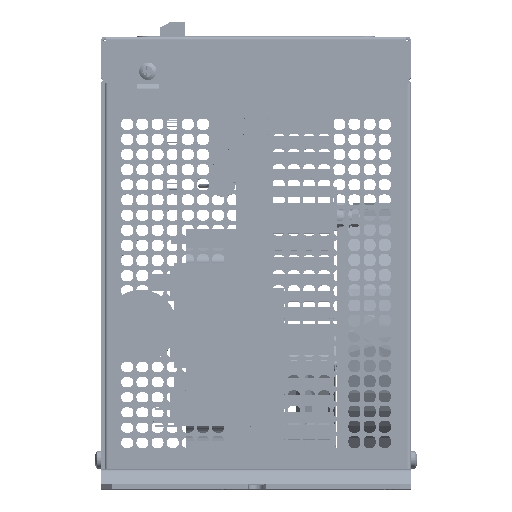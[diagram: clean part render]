
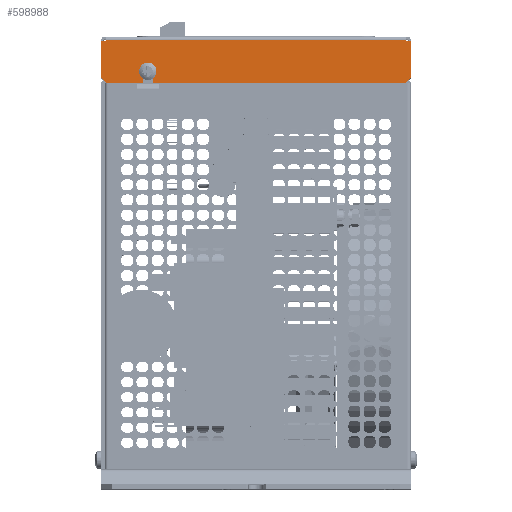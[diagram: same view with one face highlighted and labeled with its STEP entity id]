
A CAD part, top view. The second image highlights one B-rep face of the part: STEP entity #598988.
In plain terms, the highlighted planar face has unit normal (0, 0, 1).
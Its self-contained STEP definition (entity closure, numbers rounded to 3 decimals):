
#597510=DIRECTION('',(0.,-1.,0.));
#597511=VECTOR('',#597510,0.5);
#597512=CARTESIAN_POINT('',(69.5,18.5,136.5));
#597513=LINE('',#597512,#597511);
#597595=DIRECTION('',(1.,0.,0.));
#597596=VECTOR('',#597595,116.75);
#597597=CARTESIAN_POINT('',(-47.75,-1.5,136.5));
#597598=LINE('',#597597,#597596);
#597603=DIRECTION('',(1.,0.,0.));
#597604=VECTOR('',#597603,16.75);
#597605=CARTESIAN_POINT('',(-69.,-1.5,136.5));
#597606=LINE('',#597605,#597604);
#597607=DIRECTION('',(0.,1.,0.));
#597608=VECTOR('',#597607,6.5);
#597609=CARTESIAN_POINT('',(-47.75,-1.5,136.5));
#597610=LINE('',#597609,#597608);
#597611=CARTESIAN_POINT('',(-50.,5.,136.5));
#597612=DIRECTION('',(0.,0.,1.));
#597613=DIRECTION('',(1.,0.,0.));
#597614=AXIS2_PLACEMENT_3D('',#597611,#597612,#597613);
#597616=DIRECTION('',(0.,1.,0.));
#597617=VECTOR('',#597616,6.5);
#597618=CARTESIAN_POINT('',(-52.25,-1.5,136.5));
#597619=LINE('',#597618,#597617);
#597620=DIRECTION('',(1.,0.,0.));
#597621=VECTOR('',#597620,2.);
#597622=CARTESIAN_POINT('',(-71.5,18.,136.5));
#597623=LINE('',#597622,#597621);
#597624=DIRECTION('',(1.,0.,0.));
#597625=VECTOR('',#597624,139.);
#597626=CARTESIAN_POINT('',(-69.5,18.5,136.5));
#597627=LINE('',#597626,#597625);
#597628=DIRECTION('',(1.,0.,0.));
#597629=VECTOR('',#597628,2.);
#597630=CARTESIAN_POINT('',(69.5,18.,136.5));
#597631=LINE('',#597630,#597629);
#597636=DIRECTION('',(0.707,-0.707,0.));
#597637=VECTOR('',#597636,3.536);
#597638=CARTESIAN_POINT('',(-71.5,1.,136.5));
#597639=LINE('',#597638,#597637);
#597656=DIRECTION('',(0.,-1.,0.));
#597657=VECTOR('',#597656,17.);
#597658=CARTESIAN_POINT('',(-71.5,18.,136.5));
#597659=LINE('',#597658,#597657);
#597762=DIRECTION('',(0.,-1.,0.));
#597763=VECTOR('',#597762,17.);
#597764=CARTESIAN_POINT('',(71.5,18.,136.5));
#597765=LINE('',#597764,#597763);
#597794=DIRECTION('',(-0.707,-0.707,
0.));
#597795=VECTOR('',#597794,3.536);
#597796=CARTESIAN_POINT('',(71.5,1.,136.5));
#597797=LINE('',#597796,#597795);
#597824=DIRECTION('',(0.,-1.,0.));
#597825=VECTOR('',#597824,0.5);
#597826=CARTESIAN_POINT('',(-69.5,18.5,136.5));
#597827=LINE('',#597826,#597825);
#598182=CARTESIAN_POINT('',(-47.75,5.,136.5));
#598184=VERTEX_POINT('',#598182);
#598186=CARTESIAN_POINT('',(-52.25,5.,136.5));
#598188=VERTEX_POINT('',#598186);
#598286=CARTESIAN_POINT('',(-69.5,18.5,136.5));
#598287=CARTESIAN_POINT('',(69.5,18.5,136.5));
#598288=VERTEX_POINT('',#598286);
#598289=VERTEX_POINT('',#598287);
#598298=CARTESIAN_POINT('',(-47.75,-1.5,136.5));
#598299=VERTEX_POINT('',#598298);
#598300=CARTESIAN_POINT('',(-52.25,-1.5,136.5));
#598301=VERTEX_POINT('',#598300);
#598335=CARTESIAN_POINT('',(-71.5,18.,136.5));
#598337=VERTEX_POINT('',#598335);
#598343=CARTESIAN_POINT('',(71.5,18.,136.5));
#598345=VERTEX_POINT('',#598343);
#598350=CARTESIAN_POINT('',(69.5,18.,136.5));
#598352=VERTEX_POINT('',#598350);
#598360=CARTESIAN_POINT('',(-69.5,18.,136.5));
#598361=VERTEX_POINT('',#598360);
#598382=CARTESIAN_POINT('',(-71.5,1.,136.5));
#598384=VERTEX_POINT('',#598382);
#598386=CARTESIAN_POINT('',(-69.,-1.5,136.5));
#598388=VERTEX_POINT('',#598386);
#598390=CARTESIAN_POINT('',(71.5,1.,136.5));
#598392=VERTEX_POINT('',#598390);
#598394=CARTESIAN_POINT('',(69.,-1.5,136.5));
#598396=VERTEX_POINT('',#598394);
#598961=CARTESIAN_POINT('',(-69.5,18.5,136.5));
#598962=DIRECTION('',(0.,0.,1.));
#598963=DIRECTION('',(0.,-1.,0.));
#598964=AXIS2_PLACEMENT_3D('',#598961,#598962,#598963);
#598965=PLANE('',#598964);
#598966=ORIENTED_EDGE('',*,*,#598897,.T.);
#598967=ORIENTED_EDGE('',*,*,#598914,.T.);
#598968=ORIENTED_EDGE('',*,*,#598928,.F.);
#598969=ORIENTED_EDGE('',*,*,#598956,.F.);
#598971=ORIENTED_EDGE('',*,*,#598970,.F.);
#598973=ORIENTED_EDGE('',*,*,#598972,.F.);
#598974=ORIENTED_EDGE('',*,*,#598850,.T.);
#598976=ORIENTED_EDGE('',*,*,#598975,.F.);
#598978=ORIENTED_EDGE('',*,*,#598977,.T.);
#598979=ORIENTED_EDGE('',*,*,#598787,.T.);
#598980=ORIENTED_EDGE('',*,*,#598836,.T.);
#598982=ORIENTED_EDGE('',*,*,#598981,.T.);
#598984=ORIENTED_EDGE('',*,*,#598983,.T.);
#598985=ORIENTED_EDGE('',*,*,#598939,.F.);
#598986=EDGE_LOOP('',(#598966,#598967,#598968,#598969,#598971,#598973,#598974,
#598976,#598978,#598979,#598980,#598982,#598984,#598985));
#598987=FACE_OUTER_BOUND('',#598986,.F.);
#597615=CIRCLE('',#597614,2.25);
#598787=EDGE_CURVE('',#598289,#598352,#597513,.T.);
#598836=EDGE_CURVE('',#598352,#598345,#597631,.T.);
#598850=EDGE_CURVE('',#598337,#598361,#597623,.T.);
#598897=EDGE_CURVE('',#598299,#598184,#597610,.T.);
#598914=EDGE_CURVE('',#598184,#598188,#597615,.T.);
#598928=EDGE_CURVE('',#598301,#598188,#597619,.T.);
#598939=EDGE_CURVE('',#598299,#598396,#597598,.T.);
#598956=EDGE_CURVE('',#598388,#598301,#597606,.T.);
#598970=EDGE_CURVE('',#598384,#598388,#597639,.T.);
#598972=EDGE_CURVE('',#598337,#598384,#597659,.T.);
#598975=EDGE_CURVE('',#598288,#598361,#597827,.T.);
#598977=EDGE_CURVE('',#598288,#598289,#597627,.T.);
#598981=EDGE_CURVE('',#598345,#598392,#597765,.T.);
#598983=EDGE_CURVE('',#598392,#598396,#597797,.T.);
#598988=ADVANCED_FACE('',(#598987),#598965,.T.);
